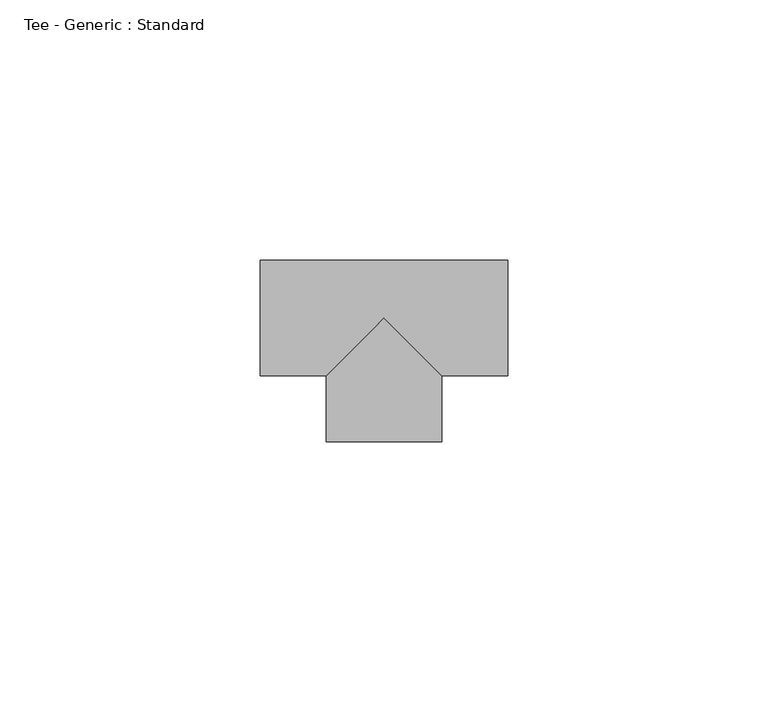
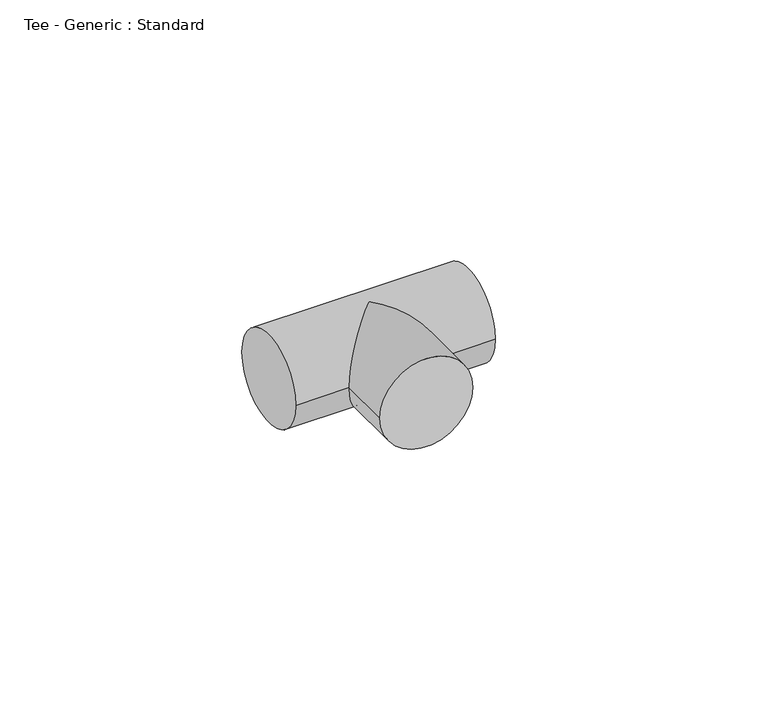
"""IFC4 building model written with IfcOpenShell, lengths in millimetres: pipe fitting geometry, Tee - Generic : Standard."""

from ifc_helpers import new_model, si_unit, frame, origin, place, context, project, spatial, circle_curve, ellipse_curve, source, transform, mapped, element, save
from ifc_brep_helpers import plane_surface, cylinder_surface, advanced_brep


def tee_generic_standard_5078887e(model_context):
    return source(origin(), model_context, "Body", "AdvancedBrep", [
        advanced_brep(
        [(-23.8125, -11.1125, 0.0), (-23.8125, 11.1125, 0.0), (23.8125, -11.1125, 0.0), (23.8125, 11.1125, 0.0), (-11.1125, -11.1125, 0.0), (0.0, 0.0, 11.1125), (11.1125, -11.1125, 0.0), (0.0, 0.0, -11.1125), (-11.1125, -23.8125, 0.0), (11.1125, -23.8125, 0.0)],
        [
            (0, 1, circle_curve(frame((-23.8125, 0.0, 0.0), z_axis=(-1.0, 0.0, 0.0), x_axis=(0.0, 1.0, 0.0)), 11.1125)),
            (1, 0, circle_curve(frame((-23.8125, 0.0, 0.0), z_axis=(-1.0, 0.0, 0.0), x_axis=(0.0, 1.0, 0.0)), 11.1125)),
            (2, 3, circle_curve(frame((23.8125, 0.0, 0.0), z_axis=(1.0, 0.0, 0.0), x_axis=(0.0, 1.0, 0.0)), 11.1125)),
            (3, 2, circle_curve(frame((23.8125, 0.0, 0.0), z_axis=(1.0, 0.0, 0.0), x_axis=(0.0, 1.0, 0.0)), 11.1125)),
            (0, 4),
            (4, 5, ellipse_curve(frame((0.0, 0.0, 0.0), z_axis=(-0.707106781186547, 0.7071067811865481, 0.0), x_axis=(-0.707106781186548, -0.707106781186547, 0.0)), 15.7154482, 11.1125)),
            (5, 6, ellipse_curve(frame((0.0, 0.0, 0.0), z_axis=(0.707106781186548, 0.7071067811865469, 0.0), x_axis=(-0.707106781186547, 0.707106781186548, 0.0)), 15.7154482, 11.1125)),
            (6, 2),
            (3, 1),
            (6, 7, ellipse_curve(frame((0.0, 0.0, 0.0), z_axis=(0.707106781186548, 0.7071067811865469, 0.0), x_axis=(-0.707106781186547, 0.707106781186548, 0.0)), 15.7154482, 11.1125)),
            (7, 4, ellipse_curve(frame((0.0, 0.0, 0.0), z_axis=(-0.707106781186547, 0.7071067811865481, 0.0), x_axis=(-0.707106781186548, -0.707106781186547, 0.0)), 15.7154482, 11.1125)),
            (8, 9, circle_curve(frame((0.0, -23.8125, 0.0), z_axis=(0.0, -1.0, 0.0), x_axis=(1.0, 0.0, 0.0)), 11.1125)),
            (9, 8, circle_curve(frame((0.0, -23.8125, 0.0), z_axis=(0.0, -1.0, 0.0), x_axis=(1.0, 0.0, 0.0)), 11.1125)),
            (9, 6),
            (4, 8),
        ],
        [
            plane_surface(frame((-23.8125, 0.0, 0.0), z_axis=(-1.0, 0.0, 0.0), x_axis=(0.0, 0.0, 1.0))),
            plane_surface(frame((23.8125, 0.0, 0.0), z_axis=(1.0, 0.0, 0.0), x_axis=(0.0, 0.0, 1.0))),
            cylinder_surface(frame((-23.8125, 0.0, 0.0), z_axis=(-1.0, 0.0, 0.0), x_axis=(0.0, 1.0, 0.0)), 11.1125),
            plane_surface(frame((0.0, -23.8125, 0.0), z_axis=(0.0, -1.0, 0.0), x_axis=(0.0, 0.0, 1.0))),
            cylinder_surface(frame((0.0, 0.0, 0.0), z_axis=(0.0, 1.0, 0.0), x_axis=(1.0, 0.0, 0.0)), 11.1125),
        ],
        [
            (0, [[1, 2]]),
            (1, [[3, 4]]),
            (2, [[-1, 5, 6, 7, 8, -4, 9]]),
            (2, [[-2, -9, -3, -8, 10, 11, -5]]),
            (3, [[12, 13]]),
            (4, [[-13, 14, -7, -6, 15]]),
            (4, [[-12, -15, -11, -10, -14]]),
        ],
    ),
    ])


if __name__ == "__main__":
    model = new_model("IFC4")
    model_context = context("Model", 3, world=origin())
    ifc_project = project(units=[si_unit("LENGTHUNIT", "METRE", prefix="MILLI")], contexts=[model_context])
    site = spatial("IfcSite", under=ifc_project)
    building = spatial("IfcBuilding", under=site)
    placement = place(None, origin())
    tee_generic_standard_shape = tee_generic_standard_5078887e(model_context)
    element("IfcPipeFitting", 1, ObjectType="Tee - Generic : Standard", at=placement, inside=building, context=model_context, shape_type="MappedRepresentation", body=[
        mapped(tee_generic_standard_shape, transform((0.0, 0.0, 0.0), x_axis=(1.0, 0.0, 0.0), y_axis=(0.0, 1.0, 0.0), z_axis=(0.0, 0.0, 1.0))),
    ])
    save(model, "model.ifc")
